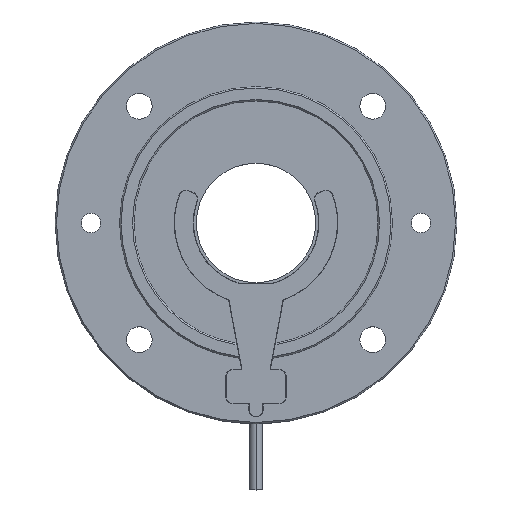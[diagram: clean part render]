
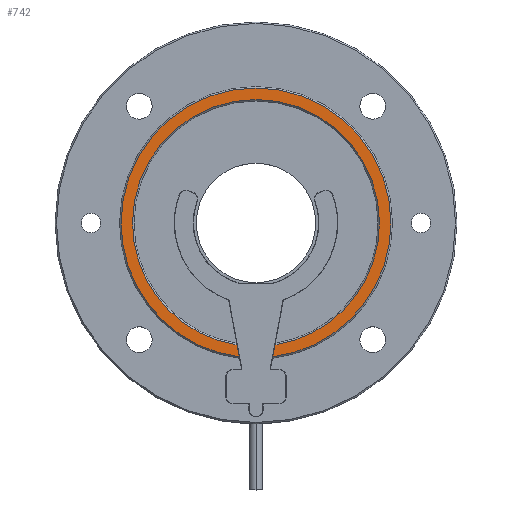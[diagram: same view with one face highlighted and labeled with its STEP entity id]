
A CAD part, top view. The second image highlights one B-rep face of the part: STEP entity #742.
In plain terms, the highlighted planar face has unit normal (0, 0, 1).
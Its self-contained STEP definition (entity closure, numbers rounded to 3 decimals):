
#172 = AXIS2_PLACEMENT_3D ( 'NONE', #808, #6054, #3151 ) ;
#357 = CARTESIAN_POINT ( 'NONE',  ( 0., 0., 0. ) ) ;
#414 = LINE ( 'NONE', #2400, #743 ) ;
#465 = CARTESIAN_POINT ( 'NONE',  ( 0., 0., 0. ) ) ;
#545 = VERTEX_POINT ( 'NONE', #2535 ) ;
#710 = VERTEX_POINT ( 'NONE', #1820 ) ;
#740 = CARTESIAN_POINT ( 'NONE',  ( -47., 0., 0. ) ) ;
#742 = ADVANCED_FACE ( 'NONE', ( #6120 ), #1699, .F. ) ;
#743 = VECTOR ( 'NONE', #4366, 1000. ) ;
#807 = ORIENTED_EDGE ( 'NONE', *, *, #3638, .F. ) ;
#808 = CARTESIAN_POINT ( 'NONE',  ( 0., 42.5, 0. ) ) ;
#912 = VERTEX_POINT ( 'NONE', #4942 ) ;
#926 = DIRECTION ( 'NONE',  ( 0., 0., -1. ) ) ;
#959 = DIRECTION ( 'NONE',  ( -1., 0., 0. ) ) ;
#991 = CIRCLE ( 'NONE', #6047, 47. ) ;
#1050 = AXIS2_PLACEMENT_3D ( 'NONE', #465, #926, #959 ) ;
#1095 = AXIS2_PLACEMENT_3D ( 'NONE', #357, #1393, #4859 ) ;
#1281 = VERTEX_POINT ( 'NONE', #740 ) ;
#1341 = DIRECTION ( 'NONE',  ( -1., 0., 0. ) ) ;
#1393 = DIRECTION ( 'NONE',  ( 0., 0., -1. ) ) ;
#1415 = EDGE_CURVE ( 'NONE', #545, #710, #3421, .T. ) ;
#1594 = CARTESIAN_POINT ( 'NONE',  ( 0., 0., 0. ) ) ;
#1680 = EDGE_LOOP ( 'NONE', ( #807, #4794, #6152, #2699, #2626, #4000, #6182, #3446 ) ) ;
#1699 = PLANE ( 'NONE',  #172 ) ;
#1820 = CARTESIAN_POINT ( 'NONE',  ( 6.588, -42.492, 0. ) ) ;
#1872 = DIRECTION ( 'NONE',  ( -1., 0., 0. ) ) ;
#2157 = DIRECTION ( 'NONE',  ( -1., 0., 0. ) ) ;
#2197 = CARTESIAN_POINT ( 'NONE',  ( 5.814, -46.639, 0. ) ) ;
#2245 = DIRECTION ( 'NONE',  ( 0.183, -0.983, 0. ) ) ;
#2400 = CARTESIAN_POINT ( 'NONE',  ( 21.693, 38.452, 0. ) ) ;
#2500 = DIRECTION ( 'NONE',  ( 0., 0., -1. ) ) ;
#2525 = VECTOR ( 'NONE', #2245, 1000. ) ;
#2535 = CARTESIAN_POINT ( 'NONE',  ( 43., 0., 0. ) ) ;
#2626 = ORIENTED_EDGE ( 'NONE', *, *, #4147, .T. ) ;
#2699 = ORIENTED_EDGE ( 'NONE', *, *, #1415, .T. ) ;
#2761 = CARTESIAN_POINT ( 'NONE',  ( -43., 0., 0. ) ) ;
#2965 = VERTEX_POINT ( 'NONE', #5616 ) ;
#3004 = VERTEX_POINT ( 'NONE', #2197 ) ;
#3133 = CARTESIAN_POINT ( 'NONE',  ( -6.588, -42.492, 0. ) ) ;
#3145 = VERTEX_POINT ( 'NONE', #2761 ) ;
#3151 = DIRECTION ( 'NONE',  ( -1., 0., 0. ) ) ;
#3421 = CIRCLE ( 'NONE', #1050, 43. ) ;
#3446 = ORIENTED_EDGE ( 'NONE', *, *, #5147, .T. ) ;
#3459 = DIRECTION ( 'NONE',  ( -1., 0., 0. ) ) ;
#3638 = EDGE_CURVE ( 'NONE', #4906, #2965, #5245, .T. ) ;
#3884 = CIRCLE ( 'NONE', #1095, 43. ) ;
#3891 = AXIS2_PLACEMENT_3D ( 'NONE', #4199, #6260, #1872 ) ;
#4000 = ORIENTED_EDGE ( 'NONE', *, *, #5563, .T. ) ;
#4048 = CARTESIAN_POINT ( 'NONE',  ( 0., 0., 0. ) ) ;
#4095 = AXIS2_PLACEMENT_3D ( 'NONE', #1594, #2500, #2157 ) ;
#4147 = EDGE_CURVE ( 'NONE', #710, #3004, #414, .T. ) ;
#4199 = CARTESIAN_POINT ( 'NONE',  ( 0., 0., 0. ) ) ;
#4366 = DIRECTION ( 'NONE',  ( -0.183, -0.983, 0. ) ) ;
#4697 = CARTESIAN_POINT ( 'NONE',  ( -21.693, 38.452, 0. ) ) ;
#4702 = EDGE_CURVE ( 'NONE', #4906, #3145, #3884, .T. ) ;
#4794 = ORIENTED_EDGE ( 'NONE', *, *, #4702, .T. ) ;
#4799 = CARTESIAN_POINT ( 'NONE',  ( 0., 0., 0. ) ) ;
#4859 = DIRECTION ( 'NONE',  ( -1., 0., 0. ) ) ;
#4906 = VERTEX_POINT ( 'NONE', #3133 ) ;
#4942 = CARTESIAN_POINT ( 'NONE',  ( 47., 0., 0. ) ) ;
#5143 = CIRCLE ( 'NONE', #3891, 47. ) ;
#5147 = EDGE_CURVE ( 'NONE', #1281, #2965, #5143, .T. ) ;
#5229 = CIRCLE ( 'NONE', #4095, 43. ) ;
#5245 = LINE ( 'NONE', #4697, #2525 ) ;
#5255 = DIRECTION ( 'NONE',  ( 0., 0., 1. ) ) ;
#5563 = EDGE_CURVE ( 'NONE', #3004, #912, #991, .T. ) ;
#5616 = CARTESIAN_POINT ( 'NONE',  ( -5.814, -46.639, 0. ) ) ;
#5813 = EDGE_CURVE ( 'NONE', #3145, #545, #5229, .T. ) ;
#5965 = AXIS2_PLACEMENT_3D ( 'NONE', #4048, #6016, #3459 ) ;
#6016 = DIRECTION ( 'NONE',  ( 0., 0., 1. ) ) ;
#6047 = AXIS2_PLACEMENT_3D ( 'NONE', #4799, #5255, #1341 ) ;
#6054 = DIRECTION ( 'NONE',  ( 0., 0., -1. ) ) ;
#6082 = EDGE_CURVE ( 'NONE', #912, #1281, #6278, .T. ) ;
#6120 = FACE_OUTER_BOUND ( 'NONE', #1680, .T. ) ;
#6152 = ORIENTED_EDGE ( 'NONE', *, *, #5813, .T. ) ;
#6182 = ORIENTED_EDGE ( 'NONE', *, *, #6082, .T. ) ;
#6260 = DIRECTION ( 'NONE',  ( 0., 0., 1. ) ) ;
#6278 = CIRCLE ( 'NONE', #5965, 47. ) ;
